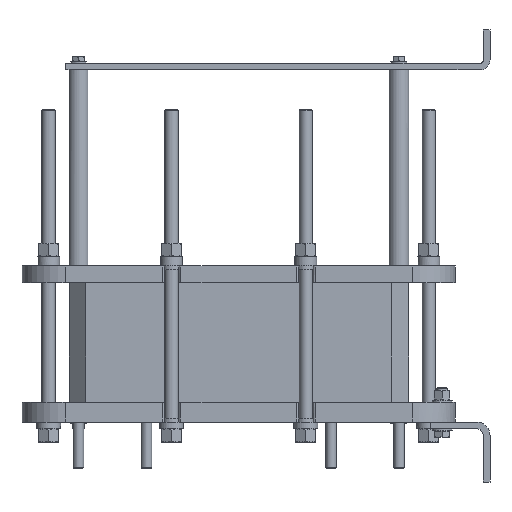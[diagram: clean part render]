
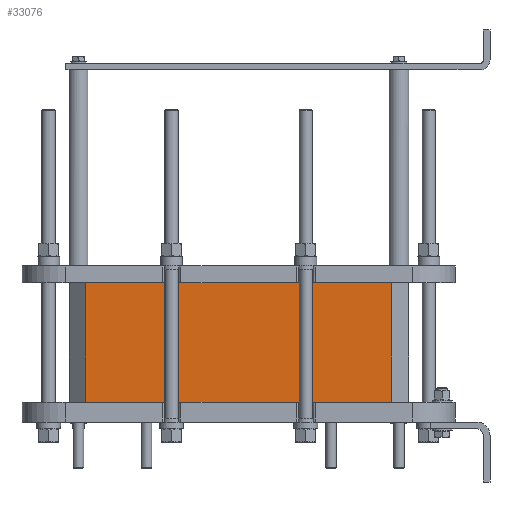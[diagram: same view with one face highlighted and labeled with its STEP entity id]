
A CAD part, left-side view. The second image highlights one B-rep face of the part: STEP entity #33076.
In plain terms, the highlighted planar face has unit normal (-1, 0, 0).
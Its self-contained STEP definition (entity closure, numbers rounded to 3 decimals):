
#30011=CARTESIAN_POINT('',(-166.5,-230.0,0.0));
#30012=VERTEX_POINT('',#30011);
#30019=CARTESIAN_POINT('',(-166.5,230.0,0.0));
#30020=VERTEX_POINT('',#30019);
#30021=CARTESIAN_POINT('',(-166.5,-230.0,0.0));
#30022=DIRECTION('',(0.0,1.0,0.0));
#30023=VECTOR('',#30022,460.0);
#30024=LINE('',#30021,#30023);
#30025=EDGE_CURVE('',#30012,#30020,#30024,.T.);
#31020=CARTESIAN_POINT('',(-166.5,230.0,180.0));
#31021=VERTEX_POINT('',#31020);
#31028=CARTESIAN_POINT('',(-166.5,-230.0,180.0));
#31029=VERTEX_POINT('',#31028);
#31030=CARTESIAN_POINT('',(-166.5,-230.0,180.0));
#31031=DIRECTION('',(0.0,1.0,0.0));
#31032=VECTOR('',#31031,460.0);
#31033=LINE('',#31030,#31032);
#31034=EDGE_CURVE('',#31029,#31021,#31033,.T.);
#33044=CARTESIAN_POINT('',(-166.5,-230.0,0.0));
#33045=DIRECTION('',(0.0,0.0,1.0));
#33046=VECTOR('',#33045,180.0);
#33047=LINE('',#33044,#33046);
#33048=EDGE_CURVE('',#30012,#31029,#33047,.T.);
#33060=CARTESIAN_POINT('',(-166.5,0.0,0.0));
#33061=DIRECTION('',(-1.0,0.0,0.0));
#33062=DIRECTION('',(0.0,0.0,1.0));
#33063=AXIS2_PLACEMENT_3D('',#33060,#33061,#33062);
#33064=PLANE('',#33063);
#33065=ORIENTED_EDGE('',*,*,#31034,.T.);
#33066=CARTESIAN_POINT('',(-166.5,230.0,0.0));
#33067=DIRECTION('',(0.0,0.0,1.0));
#33068=VECTOR('',#33067,180.0);
#33069=LINE('',#33066,#33068);
#33070=EDGE_CURVE('',#30020,#31021,#33069,.T.);
#33071=ORIENTED_EDGE('',*,*,#33070,.F.);
#33072=ORIENTED_EDGE('',*,*,#30025,.F.);
#33073=ORIENTED_EDGE('',*,*,#33048,.T.);
#33074=EDGE_LOOP('',(#33065,#33071,#33072,#33073));
#33075=FACE_OUTER_BOUND('',#33074,.T.);
#33076=ADVANCED_FACE('',(#33075),#33064,.T.);
